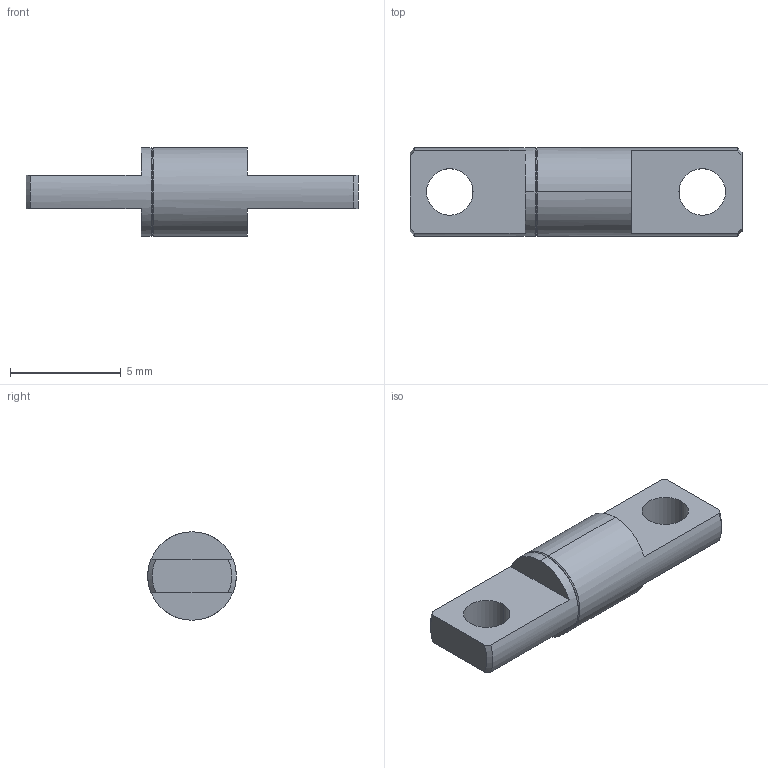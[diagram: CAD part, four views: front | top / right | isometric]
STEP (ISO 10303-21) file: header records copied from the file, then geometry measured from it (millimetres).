
FILE_DESCRIPTION (( 'STEP AP203' ), '1' );
FILE_NAME ('XG11-075-2.STEP', '2025-07-04T05:56:37', ( '微软用户' ), ( '微软中国' ), 'SwSTEP 2.0', 'SolidWorks 2024', '' );
FILE_SCHEMA (( 'CONFIG_CONTROL_DESIGN' ));
Length unit declared in the file: millimetre
Products named in the file (1): XG11-075-2
Bounding box: 15 x 4 x 4 mm (x, y, z)
Volume: 109.5 mm3; surface area: 198.2 mm2
Topology: 1 solids, 1 shells, 26 faces, 66 edges, 42 vertices
Faces by surface type: plane 10, cylinder 8, torus 4, cone 4
Entity records: 889 total; most frequent: CARTESIAN_POINT 159, DIRECTION 146, ORIENTED_EDGE 132, EDGE_CURVE 66, AXIS2_PLACEMENT_3D 61, VERTEX_POINT 42, CIRCLE 34, EDGE_LOOP 30
